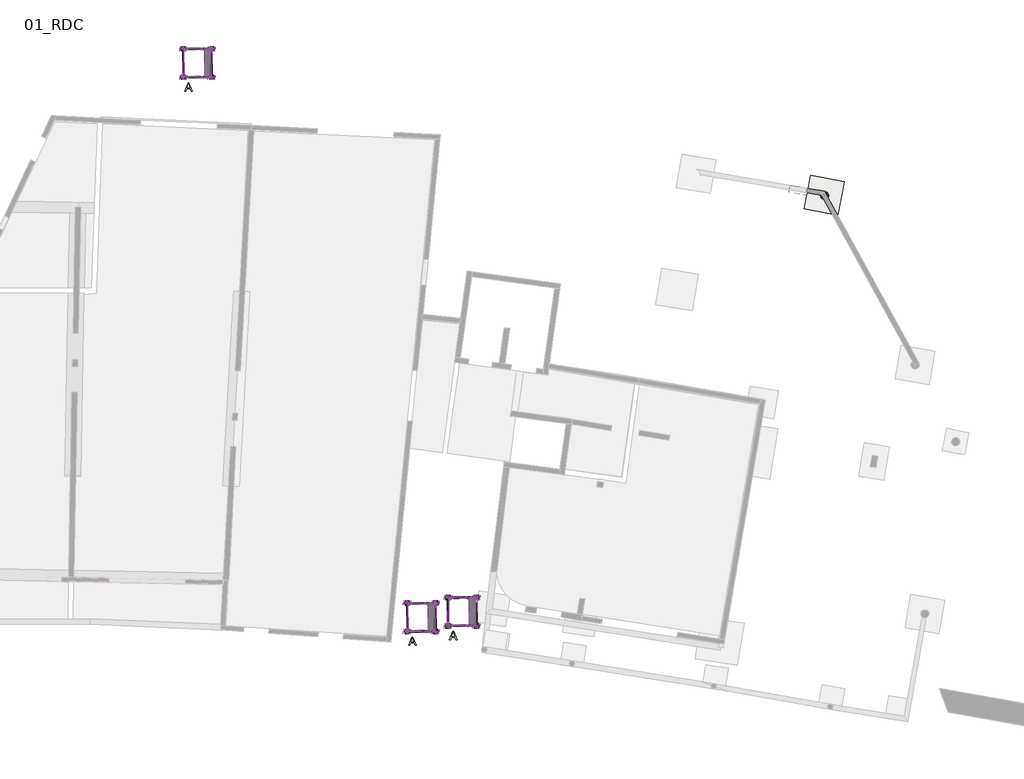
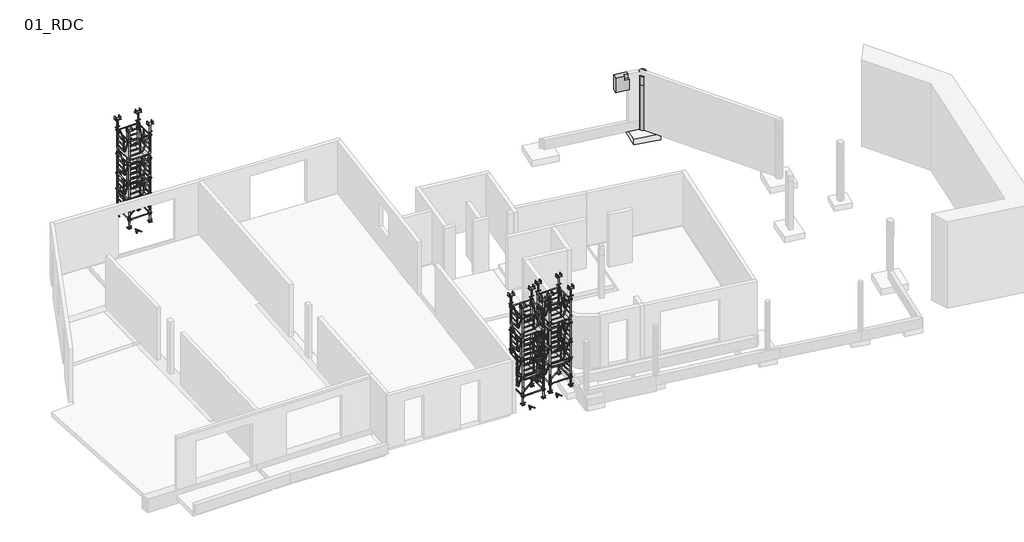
# One storey, part 5 of 5: 99 proxies, 1 beam, 1 column, 1 slab.
"""IFC4 building model written with IfcOpenShell, lengths in millimetres."""

from ifc_helpers import new_model, si_unit, point, frame, frame_2d, origin, place, context, project, spatial, polyline, circle_curve, trimmed, segment, composite_curve, outline, extrude, faceted_brep, transform, mapped, element, save
from ifc_brep_helpers import plane_surface, cylinder_surface, advanced_brep
from components import specialty_equipment_552a99b2, specialty_equipment_3c7041e7, specialty_equipment_34e7ce4f, specialty_equipment_62a0565b, proxy_1_00m_e1a59707, proxy_1m_ea16eeb2, plancher_acier_0_25mx0_65m_c3080953, se_1_00mx1_00m_65cb5320

model = new_model("IFC4")

# Units and contexts
model_context = context("Model", 3, world=origin())
ifc_project = project(units=[si_unit("LENGTHUNIT", "METRE", prefix="MILLI")], contexts=[model_context])

# Site, building, storey
site = spatial("IfcSite", under=ifc_project)
building = spatial("IfcBuilding", under=site)
storey = spatial("IfcBuildingStorey", under=building, Name="01_RDC", Elevation=21740.0)

# Beam
placement = place(None, origin())
element("IfcBeam", 1, ObjectType="Poutre_Rect_2013_JBE : 25x75ht", at=placement, inside=storey, context=model_context, shape_type="Brep", body=[
    faceted_brep([(18763.0548285, 14676.6955362, 24440.0), (18763.0548285, 14676.6955362, 23690.0), (18742.8117287, 14553.3455588, 23690.0), (18722.568629, 14429.9955815, 23690.0), (18722.568629, 14429.9955815, 24440.0), (18742.8117287, 14553.3455588, 24440.0), (19314.6485203, 14332.8287027, 23690.0), (19355.1347198, 14579.5286574, 23690.0), (19355.1347198, 14579.5286574, 24440.0), (19329.2803077, 14421.9865229, 24440.0), (19329.2803077, 14421.9865229, 24240.0), (19314.6485203, 14332.8287027, 24240.0), (19107.3540005, 14366.8480331, 23690.0), (19107.3624505, 14366.8466464, 24240.0), (19107.3624505, 14366.8466464, 24440.0), (19122.6631912, 14456.9926763, 24440.0), (19122.6631912, 14456.9926763, 24240.0)], [[[0, 1, 2, 3, 4, 5]], [[6, 7, 8, 9, 10, 11]], [[1, 0, 8, 7]], [[3, 2, 1, 7, 6, 12]], [[4, 3, 12, 6, 11, 13, 14]], [[0, 5, 4, 14, 15, 9, 8]], [[10, 16, 13, 11]], [[16, 15, 14, 13]], [[15, 16, 10, 9]]]),
])

# Proxies
specialty_equipment_shape = specialty_equipment_552a99b2(model_context)
element("IfcBuildingElementProxy", 2, Name="MILLS_TOEC_CADRE_S : entree 1m", ObjectType="MILLS_TOEC_CADRE_S : entree 1m", at=placement, inside=storey, context=model_context, shape_type="MappedRepresentation", body=[
    mapped(specialty_equipment_shape, transform((8249.8206163, -798.1548285, 22321.6), x_axis=(1.0, 0.0, 0.0), y_axis=(0.0, 1.0, 0.0), z_axis=(0.0, 0.0, 1.0))),
])
element("IfcBuildingElementProxy", 3, Name="MILLS_TOEC_CADRE_S : entree 1m", ObjectType="MILLS_TOEC_CADRE_S : entree 1m", at=placement, inside=storey, context=model_context, shape_type="MappedRepresentation", body=[
    mapped(specialty_equipment_shape, transform((6813.8436222, -998.1548285, 22321.6), x_axis=(1.0, 0.0, 0.0), y_axis=(0.0, 1.0, 0.0), z_axis=(0.0, 0.0, 1.0))),
])
element("IfcBuildingElementProxy", 4, Name="MILLS_TOEC_CADRE_S : entree 1m", ObjectType="MILLS_TOEC_CADRE_S : entree 1m", at=placement, inside=storey, context=model_context, shape_type="MappedRepresentation", body=[
    mapped(specialty_equipment_shape, transform((-1052.8948396, 18472.7061174, 22321.6), x_axis=(1.0, 0.0, 0.0), y_axis=(0.0, 1.0, 0.0), z_axis=(0.0, 0.0, 1.0))),
])
specialty_equipment_2_shape = specialty_equipment_3c7041e7(model_context)
element("IfcBuildingElementProxy", 5, Name="MILLS_TOEC_PLANCHER_TRAPPE_S : Trappe 1.0m", ObjectType="MILLS_TOEC_PLANCHER_TRAPPE_S : Trappe 1.0m", at=placement, inside=storey, context=model_context, shape_type="MappedRepresentation", body=[
    mapped(specialty_equipment_2_shape, transform((6142.3768933, 202.3566634, 22983.6), x_axis=(-1.0, 0.0, 0.0), y_axis=(0.0, -1.0, 0.0), z_axis=(0.0, 0.0, 1.0))),
])
element("IfcBuildingElementProxy", 6, Name="MILLS_TOEC_PLANCHER_TRAPPE_S : Trappe 1.0m", ObjectType="MILLS_TOEC_PLANCHER_TRAPPE_S : Trappe 1.0m", at=placement, inside=storey, context=model_context, shape_type="MappedRepresentation", body=[
    mapped(specialty_equipment_2_shape, transform((6142.3768933, 202.3566634, 25183.6), x_axis=(-1.0, 0.0, 0.0), y_axis=(0.0, -1.0, 0.0), z_axis=(0.0, 0.0, 1.0))),
])
element("IfcBuildingElementProxy", 7, Name="MILLS_TOEC_PLANCHER_TRAPPE_S : Trappe 1.0m", ObjectType="MILLS_TOEC_PLANCHER_TRAPPE_S : Trappe 1.0m", at=placement, inside=storey, context=model_context, shape_type="MappedRepresentation", body=[
    mapped(specialty_equipment_2_shape, transform((4706.3998992, 2.3566634, 22983.6), x_axis=(-1.0, 0.0, 0.0), y_axis=(0.0, -1.0, 0.0), z_axis=(0.0, 0.0, 1.0))),
])
element("IfcBuildingElementProxy", 8, Name="MILLS_TOEC_PLANCHER_TRAPPE_S : Trappe 1.0m", ObjectType="MILLS_TOEC_PLANCHER_TRAPPE_S : Trappe 1.0m", at=placement, inside=storey, context=model_context, shape_type="MappedRepresentation", body=[
    mapped(specialty_equipment_2_shape, transform((4706.3998992, 2.3566634, 25183.6), x_axis=(-1.0, 0.0, 0.0), y_axis=(0.0, -1.0, 0.0), z_axis=(0.0, 0.0, 1.0))),
])
element("IfcBuildingElementProxy", 9, Name="MILLS_TOEC_PLANCHER_TRAPPE_S : Trappe 1.0m", ObjectType="MILLS_TOEC_PLANCHER_TRAPPE_S : Trappe 1.0m", at=placement, inside=storey, context=model_context, shape_type="MappedRepresentation", body=[
    mapped(specialty_equipment_2_shape, transform((-3160.3385625, 19473.2176093, 22983.6), x_axis=(-1.0, 0.0, 0.0), y_axis=(0.0, -1.0, 0.0), z_axis=(0.0, 0.0, 1.0))),
])
element("IfcBuildingElementProxy", 10, Name="MILLS_TOEC_PLANCHER_TRAPPE_S : Trappe 1.0m", ObjectType="MILLS_TOEC_PLANCHER_TRAPPE_S : Trappe 1.0m", at=placement, inside=storey, context=model_context, shape_type="MappedRepresentation", body=[
    mapped(specialty_equipment_2_shape, transform((-3160.3385625, 19473.2176093, 25183.6), x_axis=(-1.0, 0.0, 0.0), y_axis=(0.0, -1.0, 0.0), z_axis=(0.0, 0.0, 1.0))),
])
specialty_equipment_3_shape = specialty_equipment_34e7ce4f(model_context)
element("IfcBuildingElementProxy", 11, Name="MILLS_TOEC_VERIN_DE_PIED_S : MILLS_TOEC_VERIN_DE_PIED", ObjectType="MILLS_TOEC_VERIN_DE_PIED_S : MILLS_TOEC_VERIN_DE_PIED", at=placement, inside=storey, context=model_context, shape_type="MappedRepresentation", body=[
    mapped(specialty_equipment_3_shape, transform((6848.9382257, -797.6433366, 21740.0), x_axis=(1.0, 0.0, 0.0), y_axis=(0.0, 1.0, 0.0), z_axis=(0.0, 0.0, 1.0))),
])
element("IfcBuildingElementProxy", 12, Name="MILLS_TOEC_VERIN_DE_PIED_S : MILLS_TOEC_VERIN_DE_PIED", ObjectType="MILLS_TOEC_VERIN_DE_PIED_S : MILLS_TOEC_VERIN_DE_PIED", at=placement, inside=storey, context=model_context, shape_type="MappedRepresentation", body=[
    mapped(specialty_equipment_3_shape, transform((7848.9382257, -797.6433366, 21740.0), x_axis=(1.0, 0.0, 0.0), y_axis=(0.0, 1.0, 0.0), z_axis=(0.0, 0.0, 1.0))),
])
element("IfcBuildingElementProxy", 13, Name="MILLS_TOEC_VERIN_DE_PIED_S : MILLS_TOEC_VERIN_DE_PIED", ObjectType="MILLS_TOEC_VERIN_DE_PIED_S : MILLS_TOEC_VERIN_DE_PIED", at=placement, inside=storey, context=model_context, shape_type="MappedRepresentation", body=[
    mapped(specialty_equipment_3_shape, transform((6848.9382257, 202.3566634, 21740.0), x_axis=(1.0, 0.0, 0.0), y_axis=(0.0, 1.0, 0.0), z_axis=(0.0, 0.0, 1.0))),
])
element("IfcBuildingElementProxy", 14, Name="MILLS_TOEC_VERIN_DE_PIED_S : MILLS_TOEC_VERIN_DE_PIED", ObjectType="MILLS_TOEC_VERIN_DE_PIED_S : MILLS_TOEC_VERIN_DE_PIED", at=placement, inside=storey, context=model_context, shape_type="MappedRepresentation", body=[
    mapped(specialty_equipment_3_shape, transform((7848.9382257, 202.3566634, 21740.0), x_axis=(1.0, 0.0, 0.0), y_axis=(0.0, 1.0, 0.0), z_axis=(0.0, 0.0, 1.0))),
])
element("IfcBuildingElementProxy", 15, Name="MILLS_TOEC_VERIN_DE_PIED_S : MILLS_TOEC_VERIN_DE_PIED", ObjectType="MILLS_TOEC_VERIN_DE_PIED_S : MILLS_TOEC_VERIN_DE_PIED", at=placement, inside=storey, context=model_context, shape_type="MappedRepresentation", body=[
    mapped(specialty_equipment_3_shape, transform((5412.9612316, -997.6433366, 21740.0), x_axis=(1.0, 0.0, 0.0), y_axis=(0.0, 1.0, 0.0), z_axis=(0.0, 0.0, 1.0))),
])
element("IfcBuildingElementProxy", 16, Name="MILLS_TOEC_VERIN_DE_PIED_S : MILLS_TOEC_VERIN_DE_PIED", ObjectType="MILLS_TOEC_VERIN_DE_PIED_S : MILLS_TOEC_VERIN_DE_PIED", at=placement, inside=storey, context=model_context, shape_type="MappedRepresentation", body=[
    mapped(specialty_equipment_3_shape, transform((6412.9612316, -997.6433366, 21740.0), x_axis=(1.0, 0.0, 0.0), y_axis=(0.0, 1.0, 0.0), z_axis=(0.0, 0.0, 1.0))),
])
element("IfcBuildingElementProxy", 17, Name="MILLS_TOEC_VERIN_DE_PIED_S : MILLS_TOEC_VERIN_DE_PIED", ObjectType="MILLS_TOEC_VERIN_DE_PIED_S : MILLS_TOEC_VERIN_DE_PIED", at=placement, inside=storey, context=model_context, shape_type="MappedRepresentation", body=[
    mapped(specialty_equipment_3_shape, transform((5412.9612316, 2.3566634, 21740.0), x_axis=(1.0, 0.0, 0.0), y_axis=(0.0, 1.0, 0.0), z_axis=(0.0, 0.0, 1.0))),
])
element("IfcBuildingElementProxy", 18, Name="MILLS_TOEC_VERIN_DE_PIED_S : MILLS_TOEC_VERIN_DE_PIED", ObjectType="MILLS_TOEC_VERIN_DE_PIED_S : MILLS_TOEC_VERIN_DE_PIED", at=placement, inside=storey, context=model_context, shape_type="MappedRepresentation", body=[
    mapped(specialty_equipment_3_shape, transform((6412.9612316, 2.3566634, 21740.0), x_axis=(1.0, 0.0, 0.0), y_axis=(0.0, 1.0, 0.0), z_axis=(0.0, 0.0, 1.0))),
])
element("IfcBuildingElementProxy", 19, Name="MILLS_TOEC_VERIN_DE_PIED_S : MILLS_TOEC_VERIN_DE_PIED", ObjectType="MILLS_TOEC_VERIN_DE_PIED_S : MILLS_TOEC_VERIN_DE_PIED", at=placement, inside=storey, context=model_context, shape_type="MappedRepresentation", body=[
    mapped(specialty_equipment_3_shape, transform((-2453.7772301, 18473.2176093, 21740.0), x_axis=(1.0, 0.0, 0.0), y_axis=(0.0, 1.0, 0.0), z_axis=(0.0, 0.0, 1.0))),
])
element("IfcBuildingElementProxy", 20, Name="MILLS_TOEC_VERIN_DE_PIED_S : MILLS_TOEC_VERIN_DE_PIED", ObjectType="MILLS_TOEC_VERIN_DE_PIED_S : MILLS_TOEC_VERIN_DE_PIED", at=placement, inside=storey, context=model_context, shape_type="MappedRepresentation", body=[
    mapped(specialty_equipment_3_shape, transform((-1453.7772301, 18473.2176093, 21740.0), x_axis=(1.0, 0.0, 0.0), y_axis=(0.0, 1.0, 0.0), z_axis=(0.0, 0.0, 1.0))),
])
element("IfcBuildingElementProxy", 21, Name="MILLS_TOEC_VERIN_DE_PIED_S : MILLS_TOEC_VERIN_DE_PIED", ObjectType="MILLS_TOEC_VERIN_DE_PIED_S : MILLS_TOEC_VERIN_DE_PIED", at=placement, inside=storey, context=model_context, shape_type="MappedRepresentation", body=[
    mapped(specialty_equipment_3_shape, transform((-2453.7772301, 19473.2176093, 21740.0), x_axis=(1.0, 0.0, 0.0), y_axis=(0.0, 1.0, 0.0), z_axis=(0.0, 0.0, 1.0))),
])
element("IfcBuildingElementProxy", 22, Name="MILLS_TOEC_VERIN_DE_PIED_S : MILLS_TOEC_VERIN_DE_PIED", ObjectType="MILLS_TOEC_VERIN_DE_PIED_S : MILLS_TOEC_VERIN_DE_PIED", at=placement, inside=storey, context=model_context, shape_type="MappedRepresentation", body=[
    mapped(specialty_equipment_3_shape, transform((-1453.7772301, 19473.2176093, 21740.0), x_axis=(1.0, 0.0, 0.0), y_axis=(0.0, 1.0, 0.0), z_axis=(0.0, 0.0, 1.0))),
])
specialty_equipment_4_shape = specialty_equipment_62a0565b(model_context)
element("IfcBuildingElementProxy", 23, Name="MILLS_TOEC_VERIN_DE_TETE_2_ENTREES_S : MILLS_TOEC_VERIN_DE_TETE_2_ENTREES_S", ObjectType="MILLS_TOEC_VERIN_DE_TETE_2_ENTREES_S : MILLS_TOEC_VERIN_DE_TETE_2_ENTREES_S", at=placement, inside=storey, context=model_context, shape_type="MappedRepresentation", body=[
    mapped(specialty_equipment_4_shape, transform((6848.9382257, -797.6433366, 26482.0), x_axis=(1.0, 0.0, 0.0), y_axis=(0.0, 1.0, 0.0), z_axis=(0.0, 0.0, 1.0))),
])
element("IfcBuildingElementProxy", 24, Name="MILLS_TOEC_VERIN_DE_TETE_2_ENTREES_S : MILLS_TOEC_VERIN_DE_TETE_2_ENTREES_S", ObjectType="MILLS_TOEC_VERIN_DE_TETE_2_ENTREES_S : MILLS_TOEC_VERIN_DE_TETE_2_ENTREES_S", at=placement, inside=storey, context=model_context, shape_type="MappedRepresentation", body=[
    mapped(specialty_equipment_4_shape, transform((7848.9382257, -797.6433366, 26482.0), x_axis=(1.0, 0.0, 0.0), y_axis=(0.0, 1.0, 0.0), z_axis=(0.0, 0.0, 1.0))),
])
element("IfcBuildingElementProxy", 25, Name="MILLS_TOEC_VERIN_DE_TETE_2_ENTREES_S : MILLS_TOEC_VERIN_DE_TETE_2_ENTREES_S", ObjectType="MILLS_TOEC_VERIN_DE_TETE_2_ENTREES_S : MILLS_TOEC_VERIN_DE_TETE_2_ENTREES_S", at=placement, inside=storey, context=model_context, shape_type="MappedRepresentation", body=[
    mapped(specialty_equipment_4_shape, transform((6848.9382257, 202.3566634, 26482.0), x_axis=(1.0, 0.0, 0.0), y_axis=(0.0, 1.0, 0.0), z_axis=(0.0, 0.0, 1.0))),
])
element("IfcBuildingElementProxy", 26, Name="MILLS_TOEC_VERIN_DE_TETE_2_ENTREES_S : MILLS_TOEC_VERIN_DE_TETE_2_ENTREES_S", ObjectType="MILLS_TOEC_VERIN_DE_TETE_2_ENTREES_S : MILLS_TOEC_VERIN_DE_TETE_2_ENTREES_S", at=placement, inside=storey, context=model_context, shape_type="MappedRepresentation", body=[
    mapped(specialty_equipment_4_shape, transform((7848.9382257, 202.3566634, 26482.0), x_axis=(1.0, 0.0, 0.0), y_axis=(0.0, 1.0, 0.0), z_axis=(0.0, 0.0, 1.0))),
])
element("IfcBuildingElementProxy", 27, Name="MILLS_TOEC_VERIN_DE_TETE_2_ENTREES_S : MILLS_TOEC_VERIN_DE_TETE_2_ENTREES_S", ObjectType="MILLS_TOEC_VERIN_DE_TETE_2_ENTREES_S : MILLS_TOEC_VERIN_DE_TETE_2_ENTREES_S", at=placement, inside=storey, context=model_context, shape_type="MappedRepresentation", body=[
    mapped(specialty_equipment_4_shape, transform((5412.9612316, -997.6433366, 26482.0), x_axis=(1.0, 0.0, 0.0), y_axis=(0.0, 1.0, 0.0), z_axis=(0.0, 0.0, 1.0))),
])
element("IfcBuildingElementProxy", 28, Name="MILLS_TOEC_VERIN_DE_TETE_2_ENTREES_S : MILLS_TOEC_VERIN_DE_TETE_2_ENTREES_S", ObjectType="MILLS_TOEC_VERIN_DE_TETE_2_ENTREES_S : MILLS_TOEC_VERIN_DE_TETE_2_ENTREES_S", at=placement, inside=storey, context=model_context, shape_type="MappedRepresentation", body=[
    mapped(specialty_equipment_4_shape, transform((6412.9612316, -997.6433366, 26482.0), x_axis=(1.0, 0.0, 0.0), y_axis=(0.0, 1.0, 0.0), z_axis=(0.0, 0.0, 1.0))),
])
element("IfcBuildingElementProxy", 29, Name="MILLS_TOEC_VERIN_DE_TETE_2_ENTREES_S : MILLS_TOEC_VERIN_DE_TETE_2_ENTREES_S", ObjectType="MILLS_TOEC_VERIN_DE_TETE_2_ENTREES_S : MILLS_TOEC_VERIN_DE_TETE_2_ENTREES_S", at=placement, inside=storey, context=model_context, shape_type="MappedRepresentation", body=[
    mapped(specialty_equipment_4_shape, transform((5412.9612316, 2.3566634, 26482.0), x_axis=(1.0, 0.0, 0.0), y_axis=(0.0, 1.0, 0.0), z_axis=(0.0, 0.0, 1.0))),
])
element("IfcBuildingElementProxy", 30, Name="MILLS_TOEC_VERIN_DE_TETE_2_ENTREES_S : MILLS_TOEC_VERIN_DE_TETE_2_ENTREES_S", ObjectType="MILLS_TOEC_VERIN_DE_TETE_2_ENTREES_S : MILLS_TOEC_VERIN_DE_TETE_2_ENTREES_S", at=placement, inside=storey, context=model_context, shape_type="MappedRepresentation", body=[
    mapped(specialty_equipment_4_shape, transform((6412.9612316, 2.3566634, 26482.0), x_axis=(1.0, 0.0, 0.0), y_axis=(0.0, 1.0, 0.0), z_axis=(0.0, 0.0, 1.0))),
])
element("IfcBuildingElementProxy", 31, Name="MILLS_TOEC_VERIN_DE_TETE_2_ENTREES_S : MILLS_TOEC_VERIN_DE_TETE_2_ENTREES_S", ObjectType="MILLS_TOEC_VERIN_DE_TETE_2_ENTREES_S : MILLS_TOEC_VERIN_DE_TETE_2_ENTREES_S", at=placement, inside=storey, context=model_context, shape_type="MappedRepresentation", body=[
    mapped(specialty_equipment_4_shape, transform((-2453.7772301, 18473.2176093, 26482.0), x_axis=(1.0, 0.0, 0.0), y_axis=(0.0, 1.0, 0.0), z_axis=(0.0, 0.0, 1.0))),
])
element("IfcBuildingElementProxy", 32, Name="MILLS_TOEC_VERIN_DE_TETE_2_ENTREES_S : MILLS_TOEC_VERIN_DE_TETE_2_ENTREES_S", ObjectType="MILLS_TOEC_VERIN_DE_TETE_2_ENTREES_S : MILLS_TOEC_VERIN_DE_TETE_2_ENTREES_S", at=placement, inside=storey, context=model_context, shape_type="MappedRepresentation", body=[
    mapped(specialty_equipment_4_shape, transform((-1453.7772301, 18473.2176093, 26482.0), x_axis=(1.0, 0.0, 0.0), y_axis=(0.0, 1.0, 0.0), z_axis=(0.0, 0.0, 1.0))),
])
element("IfcBuildingElementProxy", 33, Name="MILLS_TOEC_VERIN_DE_TETE_2_ENTREES_S : MILLS_TOEC_VERIN_DE_TETE_2_ENTREES_S", ObjectType="MILLS_TOEC_VERIN_DE_TETE_2_ENTREES_S : MILLS_TOEC_VERIN_DE_TETE_2_ENTREES_S", at=placement, inside=storey, context=model_context, shape_type="MappedRepresentation", body=[
    mapped(specialty_equipment_4_shape, transform((-2453.7772301, 19473.2176093, 26482.0), x_axis=(1.0, 0.0, 0.0), y_axis=(0.0, 1.0, 0.0), z_axis=(0.0, 0.0, 1.0))),
])
element("IfcBuildingElementProxy", 34, Name="MILLS_TOEC_VERIN_DE_TETE_2_ENTREES_S : MILLS_TOEC_VERIN_DE_TETE_2_ENTREES_S", ObjectType="MILLS_TOEC_VERIN_DE_TETE_2_ENTREES_S : MILLS_TOEC_VERIN_DE_TETE_2_ENTREES_S", at=placement, inside=storey, context=model_context, shape_type="MappedRepresentation", body=[
    mapped(specialty_equipment_4_shape, transform((-1453.7772301, 19473.2176093, 26482.0), x_axis=(1.0, 0.0, 0.0), y_axis=(0.0, 1.0, 0.0), z_axis=(0.0, 0.0, 1.0))),
])
proxy_1_00m_shape = proxy_1_00m_e1a59707(model_context)
element("IfcBuildingElementProxy", 35, Name="MILLS_TOEC_MOISE_S : 1.00m", ObjectType="MILLS_TOEC_MOISE_S : 1.00m", at=placement, inside=storey, context=model_context, shape_type="MappedRepresentation", body=[
    mapped(proxy_1_00m_shape, transform((8249.8206163, -797.6433366, 22161.6), x_axis=(1.0, 0.0, 0.0), y_axis=(0.0, 1.0, 0.0), z_axis=(0.0, 0.0, 1.0))),
])
element("IfcBuildingElementProxy", 36, Name="MILLS_TOEC_MOISE_S : 1.00m", ObjectType="MILLS_TOEC_MOISE_S : 1.00m", at=placement, inside=storey, context=model_context, shape_type="MappedRepresentation", body=[
    mapped(proxy_1_00m_shape, transform((8249.8206163, 202.3566634, 22161.6), x_axis=(1.0, 0.0, 0.0), y_axis=(0.0, 1.0, 0.0), z_axis=(0.0, 0.0, 1.0))),
])
element("IfcBuildingElementProxy", 37, Name="MILLS_TOEC_MOISE_S : 1.00m", ObjectType="MILLS_TOEC_MOISE_S : 1.00m", at=placement, inside=storey, context=model_context, shape_type="MappedRepresentation", body=[
    mapped(proxy_1_00m_shape, transform((6743.2906528, 708.8866269, 22161.6), x_axis=(0.0, 1.0000000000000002, 0.0), y_axis=(-1.0000000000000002, 0.0, 0.0), z_axis=(0.0, 0.0, 1.0))),
])
element("IfcBuildingElementProxy", 38, Name="MILLS_TOEC_MOISE_S : 1.00m", ObjectType="MILLS_TOEC_MOISE_S : 1.00m", at=placement, inside=storey, context=model_context, shape_type="MappedRepresentation", body=[
    mapped(proxy_1_00m_shape, transform((7743.2906528, 708.8866269, 22161.6), x_axis=(0.0, 1.0000000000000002, 0.0), y_axis=(-1.0000000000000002, 0.0, 0.0), z_axis=(0.0, 0.0, 1.0))),
])
element("IfcBuildingElementProxy", 39, Name="MILLS_TOEC_MOISE_S : 1.00m", ObjectType="MILLS_TOEC_MOISE_S : 1.00m", at=placement, inside=storey, context=model_context, shape_type="MappedRepresentation", body=[
    mapped(proxy_1_00m_shape, transform((6813.8436222, -997.6433366, 22161.6), x_axis=(1.0, 0.0, 0.0), y_axis=(0.0, 1.0, 0.0), z_axis=(0.0, 0.0, 1.0))),
])
element("IfcBuildingElementProxy", 40, Name="MILLS_TOEC_MOISE_S : 1.00m", ObjectType="MILLS_TOEC_MOISE_S : 1.00m", at=placement, inside=storey, context=model_context, shape_type="MappedRepresentation", body=[
    mapped(proxy_1_00m_shape, transform((6813.8436222, 2.3566634, 22161.6), x_axis=(1.0, 0.0, 0.0), y_axis=(0.0, 1.0, 0.0), z_axis=(0.0, 0.0, 1.0))),
])
element("IfcBuildingElementProxy", 41, Name="MILLS_TOEC_MOISE_S : 1.00m", ObjectType="MILLS_TOEC_MOISE_S : 1.00m", at=placement, inside=storey, context=model_context, shape_type="MappedRepresentation", body=[
    mapped(proxy_1_00m_shape, transform((5307.3136587, 508.8866269, 22161.6), x_axis=(0.0, 1.0000000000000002, 0.0), y_axis=(-1.0000000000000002, 0.0, 0.0), z_axis=(0.0, 0.0, 1.0))),
])
element("IfcBuildingElementProxy", 42, Name="MILLS_TOEC_MOISE_S : 1.00m", ObjectType="MILLS_TOEC_MOISE_S : 1.00m", at=placement, inside=storey, context=model_context, shape_type="MappedRepresentation", body=[
    mapped(proxy_1_00m_shape, transform((6307.3136587, 508.8866269, 22161.6), x_axis=(0.0, 1.0000000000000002, 0.0), y_axis=(-1.0000000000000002, 0.0, 0.0), z_axis=(0.0, 0.0, 1.0))),
])
element("IfcBuildingElementProxy", 43, Name="MILLS_TOEC_MOISE_S : 1.00m", ObjectType="MILLS_TOEC_MOISE_S : 1.00m", at=placement, inside=storey, context=model_context, shape_type="MappedRepresentation", body=[
    mapped(proxy_1_00m_shape, transform((-1052.8948396, 18473.2176093, 22161.6), x_axis=(1.0, 0.0, 0.0), y_axis=(0.0, 1.0, 0.0), z_axis=(0.0, 0.0, 1.0))),
])
element("IfcBuildingElementProxy", 44, Name="MILLS_TOEC_MOISE_S : 1.00m", ObjectType="MILLS_TOEC_MOISE_S : 1.00m", at=placement, inside=storey, context=model_context, shape_type="MappedRepresentation", body=[
    mapped(proxy_1_00m_shape, transform((-1052.8948396, 19473.2176093, 22161.6), x_axis=(1.0, 0.0, 0.0), y_axis=(0.0, 1.0, 0.0), z_axis=(0.0, 0.0, 1.0))),
])
element("IfcBuildingElementProxy", 45, Name="MILLS_TOEC_MOISE_S : 1.00m", ObjectType="MILLS_TOEC_MOISE_S : 1.00m", at=placement, inside=storey, context=model_context, shape_type="MappedRepresentation", body=[
    mapped(proxy_1_00m_shape, transform((-2559.424803, 19979.7475728, 22161.6), x_axis=(0.0, 1.0000000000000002, 0.0), y_axis=(-1.0000000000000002, 0.0, 0.0), z_axis=(0.0, 0.0, 1.0))),
])
element("IfcBuildingElementProxy", 46, Name="MILLS_TOEC_MOISE_S : 1.00m", ObjectType="MILLS_TOEC_MOISE_S : 1.00m", at=placement, inside=storey, context=model_context, shape_type="MappedRepresentation", body=[
    mapped(proxy_1_00m_shape, transform((-1559.424803, 19979.7475728, 22161.6), x_axis=(0.0, 1.0000000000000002, 0.0), y_axis=(-1.0000000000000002, 0.0, 0.0), z_axis=(0.0, 0.0, 1.0))),
])
proxy_1m_shape = proxy_1m_ea16eeb2(model_context)
element("IfcBuildingElementProxy", 47, Name="MILLS_TOEC_CADRE_S : 1m", ObjectType="MILLS_TOEC_CADRE_S : 1m", at=placement, inside=storey, context=model_context, shape_type="MappedRepresentation", body=[
    mapped(proxy_1m_shape, transform((8249.8206163, -798.1548285, 24121.6), x_axis=(1.0, 0.0, 0.0), y_axis=(0.0, 1.0, 0.0), z_axis=(0.0, 0.0, 1.0))),
])
element("IfcBuildingElementProxy", 48, Name="MILLS_TOEC_CADRE_S : 1m", ObjectType="MILLS_TOEC_CADRE_S : 1m", at=placement, inside=storey, context=model_context, shape_type="MappedRepresentation", body=[
    mapped(proxy_1m_shape, transform((7743.8021448, 708.8866269, 24121.6), x_axis=(0.0, 1.0000000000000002, 0.0), y_axis=(-1.0000000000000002, 0.0, 0.0), z_axis=(0.0, 0.0, 1.0))),
])
element("IfcBuildingElementProxy", 49, Name="MILLS_TOEC_CADRE_S : 1m", ObjectType="MILLS_TOEC_CADRE_S : 1m", at=placement, inside=storey, context=model_context, shape_type="MappedRepresentation", body=[
    mapped(proxy_1m_shape, transform((6236.7606893, 202.8681554, 24121.6), x_axis=(-1.0000000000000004, 0.0, 0.0), y_axis=(0.0, -1.0000000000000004, 0.0), z_axis=(0.0, 0.0, 1.0))),
])
element("IfcBuildingElementProxy", 50, Name="MILLS_TOEC_CADRE_S : 1m", ObjectType="MILLS_TOEC_CADRE_S : 1m", at=placement, inside=storey, context=model_context, shape_type="MappedRepresentation", body=[
    mapped(proxy_1m_shape, transform((6742.7791609, -1304.1733, 24121.6), x_axis=(0.0, -1.0000000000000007, 0.0), y_axis=(1.0000000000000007, 0.0, 0.0), z_axis=(0.0, 0.0, 1.0))),
])
element("IfcBuildingElementProxy", 51, Name="MILLS_TOEC_CADRE_S : 1m", ObjectType="MILLS_TOEC_CADRE_S : 1m", at=placement, inside=storey, context=model_context, shape_type="MappedRepresentation", body=[
    mapped(proxy_1m_shape, transform((8249.8206163, -798.1548285, 23121.6), x_axis=(1.0, 0.0, 0.0), y_axis=(0.0, 1.0, 0.0), z_axis=(0.0, 0.0, 1.0))),
])
element("IfcBuildingElementProxy", 52, Name="MILLS_TOEC_CADRE_S : 1m", ObjectType="MILLS_TOEC_CADRE_S : 1m", at=placement, inside=storey, context=model_context, shape_type="MappedRepresentation", body=[
    mapped(proxy_1m_shape, transform((7743.8021448, 708.8866269, 23121.6), x_axis=(0.0, 1.0000000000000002, 0.0), y_axis=(-1.0000000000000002, 0.0, 0.0), z_axis=(0.0, 0.0, 1.0))),
])
element("IfcBuildingElementProxy", 53, Name="MILLS_TOEC_CADRE_S : 1m", ObjectType="MILLS_TOEC_CADRE_S : 1m", at=placement, inside=storey, context=model_context, shape_type="MappedRepresentation", body=[
    mapped(proxy_1m_shape, transform((6236.7606893, 202.8681554, 23121.6), x_axis=(-1.0000000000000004, 0.0, 0.0), y_axis=(0.0, -1.0000000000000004, 0.0), z_axis=(0.0, 0.0, 1.0))),
])
element("IfcBuildingElementProxy", 54, Name="MILLS_TOEC_CADRE_S : 1m", ObjectType="MILLS_TOEC_CADRE_S : 1m", at=placement, inside=storey, context=model_context, shape_type="MappedRepresentation", body=[
    mapped(proxy_1m_shape, transform((6742.7791609, -1304.1733, 23121.6), x_axis=(0.0, -1.0000000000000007, 0.0), y_axis=(1.0000000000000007, 0.0, 0.0), z_axis=(0.0, 0.0, 1.0))),
])
element("IfcBuildingElementProxy", 55, Name="MILLS_TOEC_CADRE_S : 1m", ObjectType="MILLS_TOEC_CADRE_S : 1m", at=placement, inside=storey, context=model_context, shape_type="MappedRepresentation", body=[
    mapped(proxy_1m_shape, transform((7743.8021448, 708.8866269, 22321.6), x_axis=(0.0, 1.0000000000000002, 0.0), y_axis=(-1.0000000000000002, 0.0, 0.0), z_axis=(0.0, 0.0, 1.0))),
])
element("IfcBuildingElementProxy", 56, Name="MILLS_TOEC_CADRE_S : 1m", ObjectType="MILLS_TOEC_CADRE_S : 1m", at=placement, inside=storey, context=model_context, shape_type="MappedRepresentation", body=[
    mapped(proxy_1m_shape, transform((6236.7606893, 202.8681554, 22321.6), x_axis=(-1.0000000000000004, 0.0, 0.0), y_axis=(0.0, -1.0000000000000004, 0.0), z_axis=(0.0, 0.0, 1.0))),
])
element("IfcBuildingElementProxy", 57, Name="MILLS_TOEC_CADRE_S : 1m", ObjectType="MILLS_TOEC_CADRE_S : 1m", at=placement, inside=storey, context=model_context, shape_type="MappedRepresentation", body=[
    mapped(proxy_1m_shape, transform((6742.7791609, -1304.1733, 22321.6), x_axis=(0.0, -1.0000000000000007, 0.0), y_axis=(1.0000000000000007, 0.0, 0.0), z_axis=(0.0, 0.0, 1.0))),
])
element("IfcBuildingElementProxy", 58, Name="MILLS_TOEC_CADRE_S : 1m", ObjectType="MILLS_TOEC_CADRE_S : 1m", at=placement, inside=storey, context=model_context, shape_type="MappedRepresentation", body=[
    mapped(proxy_1m_shape, transform((8249.8206163, -798.1548285, 25321.6), x_axis=(1.0, 0.0, 0.0), y_axis=(0.0, 1.0, 0.0), z_axis=(0.0, 0.0, 1.0))),
])
element("IfcBuildingElementProxy", 59, Name="MILLS_TOEC_CADRE_S : 1m", ObjectType="MILLS_TOEC_CADRE_S : 1m", at=placement, inside=storey, context=model_context, shape_type="MappedRepresentation", body=[
    mapped(proxy_1m_shape, transform((7743.8021448, 708.8866269, 25321.6), x_axis=(0.0, 1.0000000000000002, 0.0), y_axis=(-1.0000000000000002, 0.0, 0.0), z_axis=(0.0, 0.0, 1.0))),
])
element("IfcBuildingElementProxy", 60, Name="MILLS_TOEC_CADRE_S : 1m", ObjectType="MILLS_TOEC_CADRE_S : 1m", at=placement, inside=storey, context=model_context, shape_type="MappedRepresentation", body=[
    mapped(proxy_1m_shape, transform((6236.7606893, 202.8681554, 25321.6), x_axis=(-1.0000000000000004, 0.0, 0.0), y_axis=(0.0, -1.0000000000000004, 0.0), z_axis=(0.0, 0.0, 1.0))),
])
element("IfcBuildingElementProxy", 61, Name="MILLS_TOEC_CADRE_S : 1m", ObjectType="MILLS_TOEC_CADRE_S : 1m", at=placement, inside=storey, context=model_context, shape_type="MappedRepresentation", body=[
    mapped(proxy_1m_shape, transform((6742.7791609, -1304.1733, 25321.6), x_axis=(0.0, -1.0000000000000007, 0.0), y_axis=(1.0000000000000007, 0.0, 0.0), z_axis=(0.0, 0.0, 1.0))),
])
element("IfcBuildingElementProxy", 62, Name="MILLS_TOEC_CADRE_S : 1m", ObjectType="MILLS_TOEC_CADRE_S : 1m", at=placement, inside=storey, context=model_context, shape_type="MappedRepresentation", body=[
    mapped(proxy_1m_shape, transform((6813.8436222, -998.1548285, 24121.6), x_axis=(1.0, 0.0, 0.0), y_axis=(0.0, 1.0, 0.0), z_axis=(0.0, 0.0, 1.0))),
])
element("IfcBuildingElementProxy", 63, Name="MILLS_TOEC_CADRE_S : 1m", ObjectType="MILLS_TOEC_CADRE_S : 1m", at=placement, inside=storey, context=model_context, shape_type="MappedRepresentation", body=[
    mapped(proxy_1m_shape, transform((6307.8251506, 508.8866269, 24121.6), x_axis=(0.0, 1.0000000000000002, 0.0), y_axis=(-1.0000000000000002, 0.0, 0.0), z_axis=(0.0, 0.0, 1.0))),
])
element("IfcBuildingElementProxy", 64, Name="MILLS_TOEC_CADRE_S : 1m", ObjectType="MILLS_TOEC_CADRE_S : 1m", at=placement, inside=storey, context=model_context, shape_type="MappedRepresentation", body=[
    mapped(proxy_1m_shape, transform((4800.7836952, 2.8681554, 24121.6), x_axis=(-1.0000000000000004, 0.0, 0.0), y_axis=(0.0, -1.0000000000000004, 0.0), z_axis=(0.0, 0.0, 1.0))),
])
element("IfcBuildingElementProxy", 65, Name="MILLS_TOEC_CADRE_S : 1m", ObjectType="MILLS_TOEC_CADRE_S : 1m", at=placement, inside=storey, context=model_context, shape_type="MappedRepresentation", body=[
    mapped(proxy_1m_shape, transform((5306.8021668, -1504.1733, 24121.6), x_axis=(0.0, -1.0000000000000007, 0.0), y_axis=(1.0000000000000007, 0.0, 0.0), z_axis=(0.0, 0.0, 1.0))),
])
element("IfcBuildingElementProxy", 66, Name="MILLS_TOEC_CADRE_S : 1m", ObjectType="MILLS_TOEC_CADRE_S : 1m", at=placement, inside=storey, context=model_context, shape_type="MappedRepresentation", body=[
    mapped(proxy_1m_shape, transform((6813.8436222, -998.1548285, 23121.6), x_axis=(1.0, 0.0, 0.0), y_axis=(0.0, 1.0, 0.0), z_axis=(0.0, 0.0, 1.0))),
])
element("IfcBuildingElementProxy", 67, Name="MILLS_TOEC_CADRE_S : 1m", ObjectType="MILLS_TOEC_CADRE_S : 1m", at=placement, inside=storey, context=model_context, shape_type="MappedRepresentation", body=[
    mapped(proxy_1m_shape, transform((6307.8251506, 508.8866269, 23121.6), x_axis=(0.0, 1.0000000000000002, 0.0), y_axis=(-1.0000000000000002, 0.0, 0.0), z_axis=(0.0, 0.0, 1.0))),
])
element("IfcBuildingElementProxy", 68, Name="MILLS_TOEC_CADRE_S : 1m", ObjectType="MILLS_TOEC_CADRE_S : 1m", at=placement, inside=storey, context=model_context, shape_type="MappedRepresentation", body=[
    mapped(proxy_1m_shape, transform((4800.7836952, 2.8681554, 23121.6), x_axis=(-1.0000000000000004, 0.0, 0.0), y_axis=(0.0, -1.0000000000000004, 0.0), z_axis=(0.0, 0.0, 1.0))),
])
element("IfcBuildingElementProxy", 69, Name="MILLS_TOEC_CADRE_S : 1m", ObjectType="MILLS_TOEC_CADRE_S : 1m", at=placement, inside=storey, context=model_context, shape_type="MappedRepresentation", body=[
    mapped(proxy_1m_shape, transform((5306.8021668, -1504.1733, 23121.6), x_axis=(0.0, -1.0000000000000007, 0.0), y_axis=(1.0000000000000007, 0.0, 0.0), z_axis=(0.0, 0.0, 1.0))),
])
element("IfcBuildingElementProxy", 70, Name="MILLS_TOEC_CADRE_S : 1m", ObjectType="MILLS_TOEC_CADRE_S : 1m", at=placement, inside=storey, context=model_context, shape_type="MappedRepresentation", body=[
    mapped(proxy_1m_shape, transform((6307.8251506, 508.8866269, 22321.6), x_axis=(0.0, 1.0000000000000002, 0.0), y_axis=(-1.0000000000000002, 0.0, 0.0), z_axis=(0.0, 0.0, 1.0))),
])
element("IfcBuildingElementProxy", 71, Name="MILLS_TOEC_CADRE_S : 1m", ObjectType="MILLS_TOEC_CADRE_S : 1m", at=placement, inside=storey, context=model_context, shape_type="MappedRepresentation", body=[
    mapped(proxy_1m_shape, transform((4800.7836952, 2.8681554, 22321.6), x_axis=(-1.0000000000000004, 0.0, 0.0), y_axis=(0.0, -1.0000000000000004, 0.0), z_axis=(0.0, 0.0, 1.0))),
])
element("IfcBuildingElementProxy", 72, Name="MILLS_TOEC_CADRE_S : 1m", ObjectType="MILLS_TOEC_CADRE_S : 1m", at=placement, inside=storey, context=model_context, shape_type="MappedRepresentation", body=[
    mapped(proxy_1m_shape, transform((5306.8021668, -1504.1733, 22321.6), x_axis=(0.0, -1.0000000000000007, 0.0), y_axis=(1.0000000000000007, 0.0, 0.0), z_axis=(0.0, 0.0, 1.0))),
])
element("IfcBuildingElementProxy", 73, Name="MILLS_TOEC_CADRE_S : 1m", ObjectType="MILLS_TOEC_CADRE_S : 1m", at=placement, inside=storey, context=model_context, shape_type="MappedRepresentation", body=[
    mapped(proxy_1m_shape, transform((6813.8436222, -998.1548285, 25321.6), x_axis=(1.0, 0.0, 0.0), y_axis=(0.0, 1.0, 0.0), z_axis=(0.0, 0.0, 1.0))),
])
element("IfcBuildingElementProxy", 74, Name="MILLS_TOEC_CADRE_S : 1m", ObjectType="MILLS_TOEC_CADRE_S : 1m", at=placement, inside=storey, context=model_context, shape_type="MappedRepresentation", body=[
    mapped(proxy_1m_shape, transform((6307.8251506, 508.8866269, 25321.6), x_axis=(0.0, 1.0000000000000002, 0.0), y_axis=(-1.0000000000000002, 0.0, 0.0), z_axis=(0.0, 0.0, 1.0))),
])
element("IfcBuildingElementProxy", 75, Name="MILLS_TOEC_CADRE_S : 1m", ObjectType="MILLS_TOEC_CADRE_S : 1m", at=placement, inside=storey, context=model_context, shape_type="MappedRepresentation", body=[
    mapped(proxy_1m_shape, transform((4800.7836952, 2.8681554, 25321.6), x_axis=(-1.0000000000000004, 0.0, 0.0), y_axis=(0.0, -1.0000000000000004, 0.0), z_axis=(0.0, 0.0, 1.0))),
])
element("IfcBuildingElementProxy", 76, Name="MILLS_TOEC_CADRE_S : 1m", ObjectType="MILLS_TOEC_CADRE_S : 1m", at=placement, inside=storey, context=model_context, shape_type="MappedRepresentation", body=[
    mapped(proxy_1m_shape, transform((5306.8021668, -1504.1733, 25321.6), x_axis=(0.0, -1.0000000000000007, 0.0), y_axis=(1.0000000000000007, 0.0, 0.0), z_axis=(0.0, 0.0, 1.0))),
])
element("IfcBuildingElementProxy", 77, Name="MILLS_TOEC_CADRE_S : 1m", ObjectType="MILLS_TOEC_CADRE_S : 1m", at=placement, inside=storey, context=model_context, shape_type="MappedRepresentation", body=[
    mapped(proxy_1m_shape, transform((-1052.8948396, 18472.7061174, 24121.6), x_axis=(1.0, 0.0, 0.0), y_axis=(0.0, 1.0, 0.0), z_axis=(0.0, 0.0, 1.0))),
])
element("IfcBuildingElementProxy", 78, Name="MILLS_TOEC_CADRE_S : 1m", ObjectType="MILLS_TOEC_CADRE_S : 1m", at=placement, inside=storey, context=model_context, shape_type="MappedRepresentation", body=[
    mapped(proxy_1m_shape, transform((-1558.9133111, 19979.7475728, 24121.6), x_axis=(0.0, 1.0000000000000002, 0.0), y_axis=(-1.0000000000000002, 0.0, 0.0), z_axis=(0.0, 0.0, 1.0))),
])
element("IfcBuildingElementProxy", 79, Name="MILLS_TOEC_CADRE_S : 1m", ObjectType="MILLS_TOEC_CADRE_S : 1m", at=placement, inside=storey, context=model_context, shape_type="MappedRepresentation", body=[
    mapped(proxy_1m_shape, transform((-3065.9547665, 19473.7291013, 24121.6), x_axis=(-1.0000000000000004, 0.0, 0.0), y_axis=(0.0, -1.0000000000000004, 0.0), z_axis=(0.0, 0.0, 1.0))),
])
element("IfcBuildingElementProxy", 80, Name="MILLS_TOEC_CADRE_S : 1m", ObjectType="MILLS_TOEC_CADRE_S : 1m", at=placement, inside=storey, context=model_context, shape_type="MappedRepresentation", body=[
    mapped(proxy_1m_shape, transform((-2559.936295, 17966.6876459, 24121.6), x_axis=(0.0, -1.0000000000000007, 0.0), y_axis=(1.0000000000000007, 0.0, 0.0), z_axis=(0.0, 0.0, 1.0))),
])
element("IfcBuildingElementProxy", 81, Name="MILLS_TOEC_CADRE_S : 1m", ObjectType="MILLS_TOEC_CADRE_S : 1m", at=placement, inside=storey, context=model_context, shape_type="MappedRepresentation", body=[
    mapped(proxy_1m_shape, transform((-1052.8948396, 18472.7061174, 23121.6), x_axis=(1.0, 0.0, 0.0), y_axis=(0.0, 1.0, 0.0), z_axis=(0.0, 0.0, 1.0))),
])
element("IfcBuildingElementProxy", 82, Name="MILLS_TOEC_CADRE_S : 1m", ObjectType="MILLS_TOEC_CADRE_S : 1m", at=placement, inside=storey, context=model_context, shape_type="MappedRepresentation", body=[
    mapped(proxy_1m_shape, transform((-1558.9133111, 19979.7475728, 23121.6), x_axis=(0.0, 1.0000000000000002, 0.0), y_axis=(-1.0000000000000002, 0.0, 0.0), z_axis=(0.0, 0.0, 1.0))),
])
element("IfcBuildingElementProxy", 83, Name="MILLS_TOEC_CADRE_S : 1m", ObjectType="MILLS_TOEC_CADRE_S : 1m", at=placement, inside=storey, context=model_context, shape_type="MappedRepresentation", body=[
    mapped(proxy_1m_shape, transform((-3065.9547665, 19473.7291013, 23121.6), x_axis=(-1.0000000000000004, 0.0, 0.0), y_axis=(0.0, -1.0000000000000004, 0.0), z_axis=(0.0, 0.0, 1.0))),
])
element("IfcBuildingElementProxy", 84, Name="MILLS_TOEC_CADRE_S : 1m", ObjectType="MILLS_TOEC_CADRE_S : 1m", at=placement, inside=storey, context=model_context, shape_type="MappedRepresentation", body=[
    mapped(proxy_1m_shape, transform((-2559.936295, 17966.6876459, 23121.6), x_axis=(0.0, -1.0000000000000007, 0.0), y_axis=(1.0000000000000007, 0.0, 0.0), z_axis=(0.0, 0.0, 1.0))),
])
element("IfcBuildingElementProxy", 85, Name="MILLS_TOEC_CADRE_S : 1m", ObjectType="MILLS_TOEC_CADRE_S : 1m", at=placement, inside=storey, context=model_context, shape_type="MappedRepresentation", body=[
    mapped(proxy_1m_shape, transform((-1558.9133111, 19979.7475728, 22321.6), x_axis=(0.0, 1.0000000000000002, 0.0), y_axis=(-1.0000000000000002, 0.0, 0.0), z_axis=(0.0, 0.0, 1.0))),
])
element("IfcBuildingElementProxy", 86, Name="MILLS_TOEC_CADRE_S : 1m", ObjectType="MILLS_TOEC_CADRE_S : 1m", at=placement, inside=storey, context=model_context, shape_type="MappedRepresentation", body=[
    mapped(proxy_1m_shape, transform((-3065.9547665, 19473.7291013, 22321.6), x_axis=(-1.0000000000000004, 0.0, 0.0), y_axis=(0.0, -1.0000000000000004, 0.0), z_axis=(0.0, 0.0, 1.0))),
])
element("IfcBuildingElementProxy", 87, Name="MILLS_TOEC_CADRE_S : 1m", ObjectType="MILLS_TOEC_CADRE_S : 1m", at=placement, inside=storey, context=model_context, shape_type="MappedRepresentation", body=[
    mapped(proxy_1m_shape, transform((-2559.936295, 17966.6876459, 22321.6), x_axis=(0.0, -1.0000000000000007, 0.0), y_axis=(1.0000000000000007, 0.0, 0.0), z_axis=(0.0, 0.0, 1.0))),
])
element("IfcBuildingElementProxy", 88, Name="MILLS_TOEC_CADRE_S : 1m", ObjectType="MILLS_TOEC_CADRE_S : 1m", at=placement, inside=storey, context=model_context, shape_type="MappedRepresentation", body=[
    mapped(proxy_1m_shape, transform((-1052.8948396, 18472.7061174, 25321.6), x_axis=(1.0, 0.0, 0.0), y_axis=(0.0, 1.0, 0.0), z_axis=(0.0, 0.0, 1.0))),
])
element("IfcBuildingElementProxy", 89, Name="MILLS_TOEC_CADRE_S : 1m", ObjectType="MILLS_TOEC_CADRE_S : 1m", at=placement, inside=storey, context=model_context, shape_type="MappedRepresentation", body=[
    mapped(proxy_1m_shape, transform((-1558.9133111, 19979.7475728, 25321.6), x_axis=(0.0, 1.0000000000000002, 0.0), y_axis=(-1.0000000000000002, 0.0, 0.0), z_axis=(0.0, 0.0, 1.0))),
])
element("IfcBuildingElementProxy", 90, Name="MILLS_TOEC_CADRE_S : 1m", ObjectType="MILLS_TOEC_CADRE_S : 1m", at=placement, inside=storey, context=model_context, shape_type="MappedRepresentation", body=[
    mapped(proxy_1m_shape, transform((-3065.9547665, 19473.7291013, 25321.6), x_axis=(-1.0000000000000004, 0.0, 0.0), y_axis=(0.0, -1.0000000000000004, 0.0), z_axis=(0.0, 0.0, 1.0))),
])
element("IfcBuildingElementProxy", 91, Name="MILLS_TOEC_CADRE_S : 1m", ObjectType="MILLS_TOEC_CADRE_S : 1m", at=placement, inside=storey, context=model_context, shape_type="MappedRepresentation", body=[
    mapped(proxy_1m_shape, transform((-2559.936295, 17966.6876459, 25321.6), x_axis=(0.0, -1.0000000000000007, 0.0), y_axis=(1.0000000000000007, 0.0, 0.0), z_axis=(0.0, 0.0, 1.0))),
])
plancher_acier_0_25mx0_65m_shape = plancher_acier_0_25mx0_65m_c3080953(model_context)
element("IfcBuildingElementProxy", 92, Name="MILLS_TOEC_PANACIER_S : Plancher Acier 0.25mx0.65m", ObjectType="MILLS_TOEC_PANACIER_S : Plancher Acier 0.25mx0.65m", at=placement, inside=storey, context=model_context, shape_type="MappedRepresentation", body=[
    mapped(plancher_acier_0_25mx0_65m_shape, transform((8322.3768933, -797.6433366, 22958.6), x_axis=(1.0, 0.0, 0.0), y_axis=(0.0, 1.0, 0.0), z_axis=(0.0, 0.0, 1.0))),
])
element("IfcBuildingElementProxy", 93, Name="MILLS_TOEC_PANACIER_S : Plancher Acier 0.25mx0.65m", ObjectType="MILLS_TOEC_PANACIER_S : Plancher Acier 0.25mx0.65m", at=placement, inside=storey, context=model_context, shape_type="MappedRepresentation", body=[
    mapped(plancher_acier_0_25mx0_65m_shape, transform((8322.3768933, -797.6433366, 25158.6), x_axis=(1.0, 0.0, 0.0), y_axis=(0.0, 1.0, 0.0), z_axis=(0.0, 0.0, 1.0))),
])
element("IfcBuildingElementProxy", 94, Name="MILLS_TOEC_PANACIER_S : Plancher Acier 0.25mx0.65m", ObjectType="MILLS_TOEC_PANACIER_S : Plancher Acier 0.25mx0.65m", at=placement, inside=storey, context=model_context, shape_type="MappedRepresentation", body=[
    mapped(plancher_acier_0_25mx0_65m_shape, transform((6886.3998992, -997.6433366, 22958.6), x_axis=(1.0, 0.0, 0.0), y_axis=(0.0, 1.0, 0.0), z_axis=(0.0, 0.0, 1.0))),
])
element("IfcBuildingElementProxy", 95, Name="MILLS_TOEC_PANACIER_S : Plancher Acier 0.25mx0.65m", ObjectType="MILLS_TOEC_PANACIER_S : Plancher Acier 0.25mx0.65m", at=placement, inside=storey, context=model_context, shape_type="MappedRepresentation", body=[
    mapped(plancher_acier_0_25mx0_65m_shape, transform((6886.3998992, -997.6433366, 25158.6), x_axis=(1.0, 0.0, 0.0), y_axis=(0.0, 1.0, 0.0), z_axis=(0.0, 0.0, 1.0))),
])
element("IfcBuildingElementProxy", 96, Name="MILLS_TOEC_PANACIER_S : Plancher Acier 0.25mx0.65m", ObjectType="MILLS_TOEC_PANACIER_S : Plancher Acier 0.25mx0.65m", at=placement, inside=storey, context=model_context, shape_type="MappedRepresentation", body=[
    mapped(plancher_acier_0_25mx0_65m_shape, transform((-980.3385625, 18473.2176093, 22958.6), x_axis=(1.0, 0.0, 0.0), y_axis=(0.0, 1.0, 0.0), z_axis=(0.0, 0.0, 1.0))),
])
element("IfcBuildingElementProxy", 97, Name="MILLS_TOEC_PANACIER_S : Plancher Acier 0.25mx0.65m", ObjectType="MILLS_TOEC_PANACIER_S : Plancher Acier 0.25mx0.65m", at=placement, inside=storey, context=model_context, shape_type="MappedRepresentation", body=[
    mapped(plancher_acier_0_25mx0_65m_shape, transform((-980.3385625, 18473.2176093, 25158.6), x_axis=(1.0, 0.0, 0.0), y_axis=(0.0, 1.0, 0.0), z_axis=(0.0, 0.0, 1.0))),
])
se_1_00mx1_00m_shape = se_1_00mx1_00m_65cb5320(model_context)
element("IfcBuildingElementProxy", 98, Name="MILLS_DYN_TOEC_TOURECHAF : se_1.00mx1.00m", ObjectType="MILLS_DYN_TOEC_TOURECHAF : se_1.00mx1.00m", at=placement, inside=storey, context=model_context, shape_type="MappedRepresentation", body=[
    mapped(se_1_00mx1_00m_shape, transform((6848.9382257, -797.6433366, 21740.0), x_axis=(1.0, 0.0, 0.0), y_axis=(0.0, 1.0, 0.0), z_axis=(0.0, 0.0, 1.0))),
])
element("IfcBuildingElementProxy", 99, Name="MILLS_DYN_TOEC_TOURECHAF : se_1.00mx1.00m", ObjectType="MILLS_DYN_TOEC_TOURECHAF : se_1.00mx1.00m", at=placement, inside=storey, context=model_context, shape_type="MappedRepresentation", body=[
    mapped(se_1_00mx1_00m_shape, transform((5412.9612316, -997.6433366, 21740.0), x_axis=(1.0, 0.0, 0.0), y_axis=(0.0, 1.0, 0.0), z_axis=(0.0, 0.0, 1.0))),
])
element("IfcBuildingElementProxy", 100, Name="MILLS_DYN_TOEC_TOURECHAF : se_1.00mx1.00m", ObjectType="MILLS_DYN_TOEC_TOURECHAF : se_1.00mx1.00m", at=placement, inside=storey, context=model_context, shape_type="MappedRepresentation", body=[
    mapped(se_1_00mx1_00m_shape, transform((-2453.7772301, 18473.2176093, 21740.0), x_axis=(1.0, 0.0, 0.0), y_axis=(0.0, 1.0, 0.0), z_axis=(0.0, 0.0, 1.0))),
])

# Column
element("IfcColumn", 101, ObjectType="Pot_Circ_2013_JBE : diametre 30", at=placement, inside=storey, context=model_context, shape_type="SolidModel", body=[
    advanced_brep(
    [(19982.2413295, 14460.0910289, 24440.0), (20097.2360849, 14250.5199404, 24440.0), (20116.0619427, 14323.2753142, 24440.0), (19816.9275572, 14339.3667732, 24440.0), (19871.0077552, 14330.204223, 24440.0), (19841.9707276, 14383.1224753, 24440.0), (19816.0619427, 14323.2753142, 23790.0), (19956.965483, 14173.5513868, 23790.0), (19956.965483, 14173.5513868, 24240.0), (19816.0619427, 14323.2753142, 24240.0), (20116.0619427, 14323.2753142, 23790.0), (19816.9275572, 14339.3667732, 24240.0), (20097.2360849, 14250.5199404, 23790.0), (19982.2413295, 14460.0910289, 23790.0), (19841.9707276, 14383.1224753, 23790.0), (19871.0077552, 14330.204223, 24240.0)],
    [
        (0, 1),
        (1, 2, circle_curve(frame((19966.0619427, 14323.2753142, 24440.0), z_axis=(0.0, 0.0, 1.0), x_axis=(1.0, 0.0, 0.0)), 150.0)),
        (2, 3, circle_curve(frame((19966.0619427, 14323.2753142, 24440.0), z_axis=(0.0, 0.0, 1.0), x_axis=(1.0, 0.0, 0.0)), 150.0)),
        (3, 4),
        (4, 5),
        (5, 0),
        (6, 7, circle_curve(frame((19966.0619427, 14323.2753142, 23790.0), z_axis=(0.0, 0.0, 1.0), x_axis=(1.0, 0.0, 0.0)), 150.0)),
        (7, 8),
        (8, 9, circle_curve(frame((19966.0619427, 14323.2753142, 24240.0), z_axis=(0.0, 0.0, -1.0), x_axis=(1.0, 0.0, 0.0)), 150.0)),
        (9, 6),
        (10, 6, circle_curve(frame((19966.0619427, 14323.2753142, 23790.0), z_axis=(0.0, 0.0, 1.0), x_axis=(1.0, 0.0, 0.0)), 150.0)),
        (9, 11, circle_curve(frame((19966.0619427, 14323.2753142, 24240.0), z_axis=(0.0, 0.0, -1.0), x_axis=(1.0, 0.0, 0.0)), 150.0)),
        (11, 3),
        (2, 10),
        (10, 12, circle_curve(frame((19966.0619427, 14323.2753142, 23790.0), z_axis=(0.0, 0.0, -1.0), x_axis=(1.0, 0.0, 0.0)), 150.0)),
        (12, 13),
        (13, 14),
        (14, 7),
        (14, 5),
        (4, 15),
        (15, 8),
        (15, 11),
        (0, 13),
        (12, 1),
    ],
    [
        plane_surface(frame((20116.0619427, 14323.2753142, 24440.0), z_axis=(0.0, 0.0, 1.0), x_axis=(0.0, 1.0, 0.0))),
        cylinder_surface(frame((19966.0619427, 14323.2753142, 23790.0), z_axis=(0.0, 0.0, 1.0), x_axis=(1.0, 0.0, 0.0)), 150.0),
        plane_surface(frame((20116.0619427, 14323.2753142, 23790.0), z_axis=(0.0, 0.0, -1.0), x_axis=(0.0, -1.0, 0.0))),
        plane_surface(frame((19894.8866082, 14286.6864365, 21470.0), z_axis=(0.8766912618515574, 0.48105346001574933, 0.0), x_axis=(0.48105346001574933, -0.8766912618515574, 0.0))),
        plane_surface(frame((19978.3894898, 14276.8813671, 24240.0), z_axis=(0.0, 0.0, 1.0), x_axis=(0.47208152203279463, -0.881554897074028, 0.0))),
        plane_surface(frame((19122.6631912, 14456.9926763, 24240.0), z_axis=(-0.16704469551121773, -0.9859493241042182, 0.0), x_axis=(0.0, 0.0, 1.0))),
        plane_surface(frame((20035.1572101, 14363.6549901, 21470.0), z_axis=(-0.8766912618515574, -0.48105346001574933, 0.0), x_axis=(-0.48105346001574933, 0.8766912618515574, 0.0))),
        plane_surface(frame((19841.9707276, 14383.1224753, 24440.0), z_axis=(0.4810534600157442, -0.8766912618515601, 0.0), x_axis=(0.8766912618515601, 0.4810534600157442, 0.0))),
    ],
    [
        (0, [[1, 2, 3, 4, 5, 6]]),
        (1, [[7, 8, 9, 10]]),
        (1, [[11, -10, 12, 13, -3, 14]]),
        (2, [[-11, 15, 16, 17, 18, -7]]),
        (3, [[-18, 19, -5, 20, 21, -8]]),
        (4, [[22, -12, -9, -21]]),
        (5, [[-22, -20, -4, -13]]),
        (6, [[-1, 23, -16, 24]]),
        (7, [[-19, -17, -23, -6]]),
        (1, [[-14, -2, -24, -15]]),
    ],
),
    extrude(outline(composite_curve([segment(trimmed(circle_curve(frame_2d((19966.0619427, 14323.2753142)), 150.0), [point((19816.0619427, 14323.2753142))], [point((20116.0619427, 14323.2753142))], False, "CARTESIAN"), True, "CONTINUOUS"), segment(trimmed(circle_curve(frame_2d((19966.0619427, 14323.2753142)), 150.0), [point((20116.0619427, 14323.2753142))], [point((20097.2360849, 14250.5199404))], False, "CARTESIAN"), True, "CONTINUOUS"), segment(polyline([(20097.2360849, 14250.5199404), (19982.2413295, 14460.0910289), (19841.9707276, 14383.1224753), (19956.965483, 14173.5513868)]), True, "CONTINUOUS"), segment(trimmed(circle_curve(frame_2d((19966.0619427, 14323.2753142)), 150.0), [point((19956.965483, 14173.5513868))], [point((19816.0619427, 14323.2753142))], False, "CARTESIAN"), True, "CONTINUOUS")], self_intersect=False)), frame((0.0, 0.0, 21470.0), z_axis=(0.0, 0.0, 1.0), x_axis=(1.0, 0.0, 0.0)), (0.0, 0.0, 1.0), 2320.0),
])

# Slab
element("IfcSlab", 102, ObjectType="Base rectangulaire : 120x120x30 ht", at=placement, inside=storey, context=model_context, shape_type="SweptSolid", body=[
    extrude(outline(polyline([(20669.52365, 14797.766227), (20440.5528555, 13619.8136069), (19262.6002354, 13848.7844013), (19491.5710299, 15026.7370215), (20669.52365, 14797.766227)])), frame((0.0, 0.0, 21170.0), z_axis=(0.0, 0.0, 1.0), x_axis=(1.0, 0.0, 0.0)), (0.0, 0.0, 1.0), 300.0),
    extrude(outline(polyline([(20669.52365, 14797.766227), (20440.5528555, 13619.8136069), (19262.6002354, 13848.7844013), (19491.5710299, 15026.7370215), (20669.52365, 14797.766227)])), frame((0.0, 0.0, 21170.0), z_axis=(0.0, 0.0, 1.0), x_axis=(1.0, 0.0, 0.0)), (0.0, 0.0, 1.0), 300.0),
])

save(model, "model.ifc")
